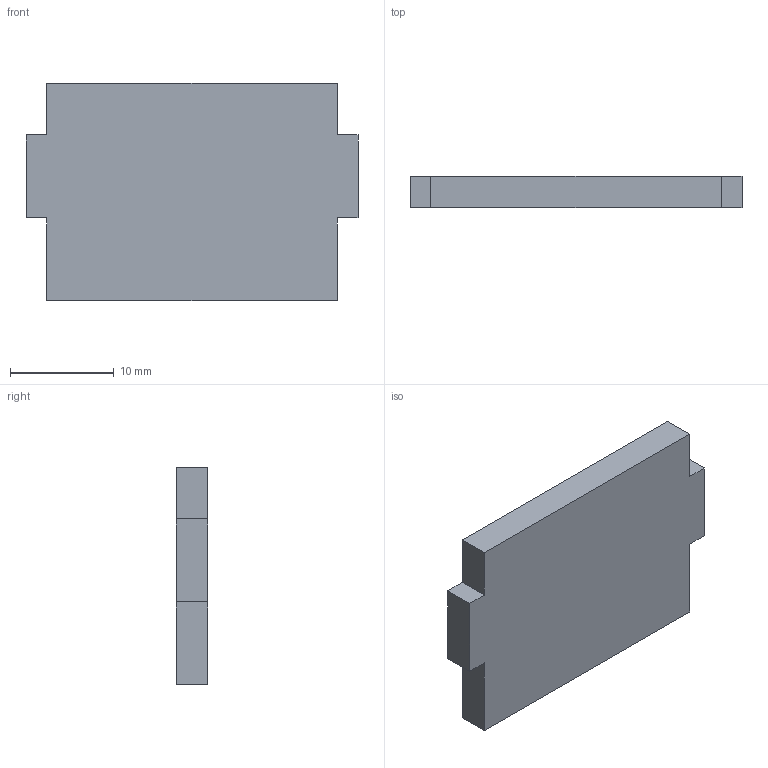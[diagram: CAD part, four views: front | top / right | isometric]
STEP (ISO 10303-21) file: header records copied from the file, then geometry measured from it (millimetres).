
FILE_DESCRIPTION (( 'STEP AP203' ), '1' );
FILE_NAME ('ECM能源组合模块-挡板.STEP', '2024-06-11T07:51:55', ( 'Windows 用户' ), ( 'Organization' ), 'SwSTEP 2.0', 'SolidWorks 2018', '' );
FILE_SCHEMA (( 'CONFIG_CONTROL_DESIGN' ));
Length unit declared in the file: millimetre
Products named in the file (1): ECM能源组合模块-挡板
Bounding box: 32 x 3 x 21 mm (x, y, z)
Volume: 1860 mm3; surface area: 1558 mm2
Topology: 1 solids, 1 shells, 14 faces, 36 edges, 24 vertices
Faces by surface type: plane 14
Entity records: 497 total; most frequent: CARTESIAN_POINT 75, ORIENTED_EDGE 72, DIRECTION 66, EDGE_CURVE 36, VECTOR 36, LINE 36, VERTEX_POINT 24, AXIS2_PLACEMENT_3D 15
